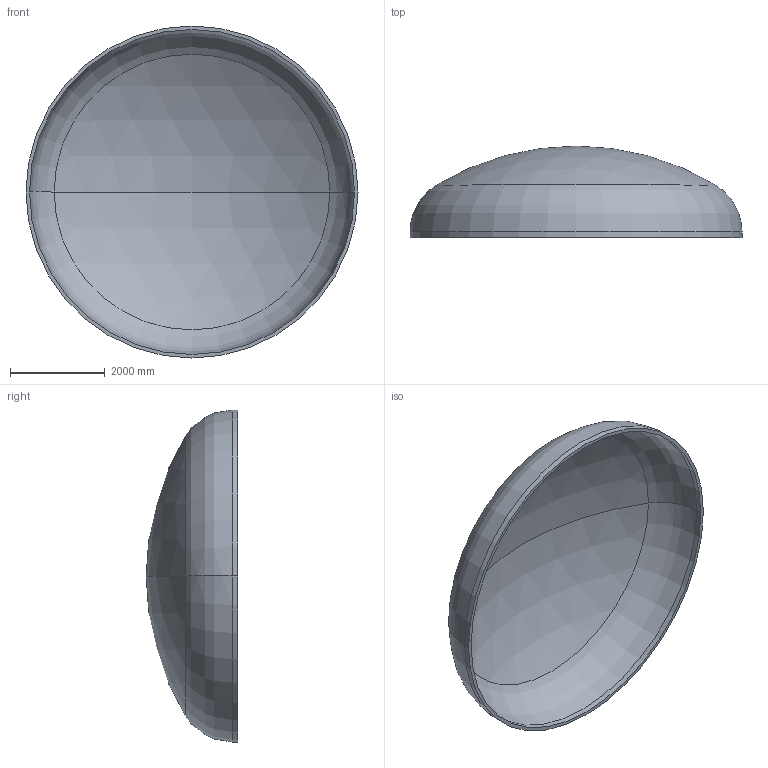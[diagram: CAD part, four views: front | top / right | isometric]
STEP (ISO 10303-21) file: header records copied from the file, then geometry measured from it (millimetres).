
FILE_DESCRIPTION (( 'STEP AP203' ), '1' );
FILE_NAME ('DIN 28013 Korbbogenform_-_Boden DIN 28013 - 7000 x 120 - I - s=74.step', '2016-07-04T10:48:58', ( '' ), ( '' ), 'SwSTEP 2.0', 'SolidWorks 2013', '' );
FILE_SCHEMA (( 'CONFIG_CONTROL_DESIGN' ));
Length unit declared in the file: millimetre
Products named in the file (1): DIN 28013 Korbbogenform_-_Boden DIN 28013 - 7000 x 120 - I - s=74
Bounding box: 7000 x 1930.49 x 7000 mm (x, y, z)
Volume: 4084111735.9 mm3; surface area: 112002966.6 mm2
Topology: 1 solids, 1 shells, 13 faces, 24 edges, 14 vertices
Faces by surface type: torus 4, cylinder 4, sphere 4, plane 1
Entity records: 407 total; most frequent: DIRECTION 72, CARTESIAN_POINT 52, ORIENTED_EDGE 48, AXIS2_PLACEMENT_3D 34, EDGE_CURVE 24, CIRCLE 20, VERTEX_POINT 14, EDGE_LOOP 14
